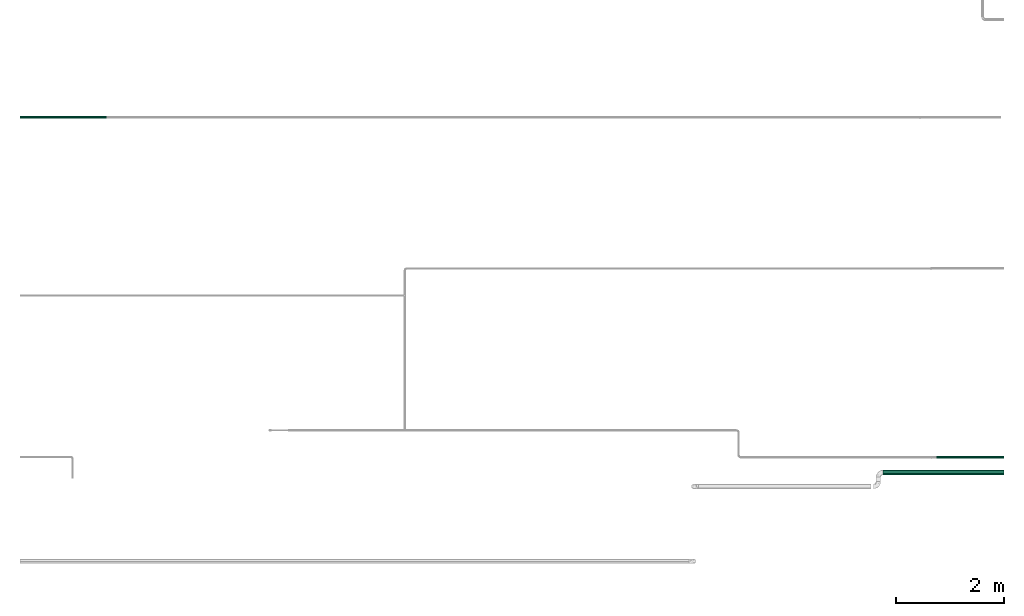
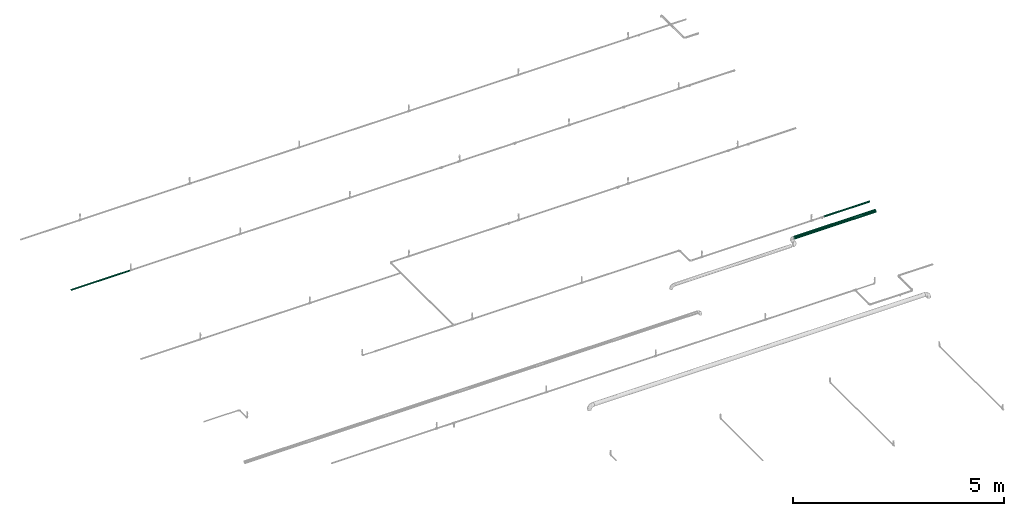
# One storey, part 91 of 94: 3 flow segments.
"""IFC2X3 building model written with IfcOpenShell, lengths in millimetres."""

import ifcopenshell
import ifcopenshell.guid

model = None  # the IFC model being written
_history = None  # IfcOwnerHistory: only IFC2X3 demands one
_inside = {}  # id of a spatial element -> (the spatial element, [elements in it])
_under = {}  # id of a project, library or spatial element -> (it, [spatial elements below it])
_declared = {}  # id of a project -> (the project, [libraries it declares])
_typed = {}  # id of a type object -> (the type object, [elements of that type])
_made_of = {}  # id of a material, layer set ... -> (it, [elements and type objects made of it])


def new_model(schema):
    """Start an empty IFC model of exactly this schema.

    Asked for "IFC4X3", IfcOpenShell would pick the latest addendum, in which some entities
    have other attributes; the version numbers below select the first issue.
    IFC2X3 requires an IfcOwnerHistory on every rooted entity: one is made here for all.
    """
    global model, _history
    if schema == "IFC4X3":
        model = ifcopenshell.file(schema_version=(4, 3, 0, 0))
    else:
        model = ifcopenshell.file(schema=schema)
    _inside.clear()
    _under.clear()
    _declared.clear()
    _typed.clear()
    _made_of.clear()
    _history = None
    if model.schema == "IFC2X3":
        org = make("IfcOrganization", Name="unknown")
        user = make(
            "IfcPersonAndOrganization",
            ThePerson=make("IfcPerson", FamilyName="unknown"),
            TheOrganization=org,
        )
        app = make(
            "IfcApplication",
            ApplicationDeveloper=org,
            Version="unknown",
            ApplicationFullName="unknown",
            ApplicationIdentifier="unknown",
        )
        _history = make(
            "IfcOwnerHistory",
            OwningUser=user,
            OwningApplication=app,
            ChangeAction="ADDED",
            CreationDate=0,
        )
    return model


def make(cls, **values):
    """One entity of the class cls with the attributes given. An attribute that is None is left unset."""
    return model.create_entity(
        cls, **{name: value for name, value in values.items() if value is not None}
    )


def entity(cls, *values):
    """Any entity or typed value of the class cls, its attributes in the order of the schema. None: left unset."""
    e = model.create_entity(cls)
    for i, value in enumerate(values):
        if value is not None:
            e[i] = value
    return e


def rooted(cls, **values):
    """An entity with a GlobalId (a new one), such as an element, a storey or a relation."""
    return make(cls, GlobalId=ifcopenshell.guid.new(), OwnerHistory=_history, **values)


def si_unit(unit_type, name, prefix=None):
    """IfcSIUnit, for example si_unit("LENGTHUNIT", "METRE", prefix="MILLI")."""
    return make("IfcSIUnit", UnitType=unit_type, Prefix=prefix, Name=name)


def converted_unit(unit_type, name, factor, base, dimensions=None, offset=None):
    """IfcConversionBasedUnit, such as the inch: factor (a typed value) times the base unit."""
    return make(
        "IfcConversionBasedUnit"
        if offset is None
        else "IfcConversionBasedUnitWithOffset",
        ConversionOffset=offset,
        Dimensions=None
        if dimensions is None
        else entity("IfcDimensionalExponents", *dimensions),
        UnitType=unit_type,
        Name=name,
        ConversionFactor=make(
            "IfcMeasureWithUnit", ValueComponent=factor, UnitComponent=base
        ),
    )


def derived_unit(unit_type, elements):
    """IfcDerivedUnit: a product of units, each with its exponent."""
    return make(
        "IfcDerivedUnit",
        Elements=[
            make("IfcDerivedUnitElement", Unit=unit, Exponent=power)
            for unit, power in elements
        ],
        UnitType=unit_type,
    )


def assignment(units):
    """IfcUnitAssignment: the units of a project."""
    return None if units is None else make("IfcUnitAssignment", Units=units)


def point(xyz):
    """IfcCartesianPoint."""
    return None if xyz is None else make("IfcCartesianPoint", Coordinates=xyz)


def direction(xyz):
    """IfcDirection."""
    return None if xyz is None else make("IfcDirection", DirectionRatios=xyz)


def frame(location, z_axis=None, x_axis=None):
    """IfcAxis2Placement3D, a coordinate frame: its origin and axes. An axis left out is left unset."""
    return make(
        "IfcAxis2Placement3D",
        Location=point(location),
        Axis=direction(z_axis),
        RefDirection=direction(x_axis),
    )


def place(relative_to, where):
    """IfcLocalPlacement: puts the frame where relative to a parent placement (None: the world)."""
    return make(
        "IfcLocalPlacement", PlacementRelTo=relative_to, RelativePlacement=where
    )


def context(
    kind, dimensions, precision=None, world=None, true_north=None, identifier=None
):
    """IfcGeometricRepresentationContext, for example the 3D "Model" context."""
    return make(
        "IfcGeometricRepresentationContext",
        ContextIdentifier=identifier,
        ContextType=kind,
        CoordinateSpaceDimension=dimensions,
        Precision=precision,
        WorldCoordinateSystem=world,
        TrueNorth=true_north,
    )


def subcontext(parent, identifier, kind, view, scale=None):
    """IfcGeometricRepresentationSubContext, for example "Body" below "Model"."""
    return make(
        "IfcGeometricRepresentationSubContext",
        ContextIdentifier=identifier,
        ContextType=kind,
        ParentContext=parent,
        TargetScale=scale,
        TargetView=view,
    )


def project(units=None, contexts=None):
    """IfcProject with its units and contexts."""
    return rooted(
        "IfcProject",
        Name="project",
        RepresentationContexts=contexts,
        UnitsInContext=assignment(units),
    )


def spatial(cls, under=None, at=None, **own):
    """A site, building, storey or space (cls), placed at a placement, below another one or the project."""
    s = rooted(cls, ObjectPlacement=at, **own)
    if under is not None:
        _under.setdefault(under.id(), (under, []))[1].append(s)
    return s


def faces_of(points, faces, orient=None, outer=None):
    """IfcFace entities. A face is a list of loops; a loop is a list of indices into points, from 0.

    orient and outer hold one flag for each loop. By default every Orientation is true, the
    first loop of a face is its IfcFaceOuterBound and the others are IfcFaceBound.
    """
    made = []
    for i, loops in enumerate(faces):
        bounds = []
        for j, loop in enumerate(loops):
            is_outer = j == 0 if outer is None else outer[i][j]
            bounds.append(
                make(
                    "IfcFaceOuterBound" if is_outer else "IfcFaceBound",
                    Bound=make("IfcPolyLoop", Polygon=[points[k] for k in loop]),
                    Orientation=True if orient is None else orient[i][j],
                )
            )
        made.append(make("IfcFace", Bounds=bounds))
    return made


def faceted_brep(points, faces, orient=None, outer=None, voids=None):
    """IfcFacetedBrep: a solid bounded by flat faces; with voids (closed shells), ...WithVoids."""
    shared = [point(p) for p in points]
    hull = make("IfcClosedShell", CfsFaces=faces_of(shared, faces, orient, outer))
    if voids is None:
        return make("IfcFacetedBrep", Outer=hull)
    return make(
        "IfcFacetedBrepWithVoids",
        Outer=hull,
        Voids=[
            make(cls, CfsFaces=faces_of(shared, fs, o, b)) for cls, fs, o, b in voids
        ],
    )


def shape(context_of_items, identifier, shape_type, items):
    """IfcShapeRepresentation: the items that make up one representation, for example the "Body"."""
    return make(
        "IfcShapeRepresentation",
        ContextOfItems=context_of_items,
        RepresentationIdentifier=identifier,
        RepresentationType=shape_type,
        Items=items,
    )


def made_of(thing, what):
    """Note that an element or type object is made of a material, layer set ...; save() writes the relation."""
    if what is not None:
        _made_of.setdefault(what.id(), (what, []))[1].append(thing)
    return thing


def type_object(cls, material=None, **own):
    """A type object (cls), such as IfcWallType, which elements share."""
    return made_of(rooted(cls, **own), material)


def element(
    cls,
    number,
    at=None,
    inside=None,
    cuts=None,
    type_object=None,
    material=None,
    context=None,
    identifier="Body",
    shape_type=None,
    held_by="IfcProductDefinitionShape",
    body=None,
    shapes=None,
    **own,
):
    """One element of the class cls, such as IfcWall. Its Tag is "e" and its number.

    at: its placement. inside: the storey or other place that contains it. cuts: it is an
    opening in that element (IfcRelVoidsElement). A single representation is given by context,
    identifier, shape_type and body (its items); several are given by shapes. held_by: the class
    of the entity that holds the representations. save() writes the other relations.
    """
    e = rooted(cls, Tag="e%d" % number, ObjectPlacement=at, **own)
    if body is not None:
        shapes = [shape(context, identifier, shape_type, body)]
    if shapes is not None:
        e.Representation = make(held_by, Representations=shapes)
    if inside is not None:
        _inside.setdefault(inside.id(), (inside, []))[1].append(e)
    if cuts is not None:
        rooted(
            "IfcRelVoidsElement", RelatingBuildingElement=cuts, RelatedOpeningElement=e
        )
    if type_object is not None:
        _typed.setdefault(type_object.id(), (type_object, []))[1].append(e)
    return made_of(e, material)


def aggregate(whole, parts):
    """IfcRelAggregates: a whole, such as a stair, and the parts it consists of."""
    return rooted("IfcRelAggregates", RelatingObject=whole, RelatedObjects=parts)


def save(model, path):
    """Write the relations noted so far, then the file.

    IfcRelAggregates (storeys below a building ...), IfcRelContainedInSpatialStructure (elements
    in a storey), IfcRelDefinesByType, IfcRelAssociatesMaterial and IfcRelDeclares: one each for
    every whole, place, type object, material and project.
    """
    for whole, parts in _under.values():
        aggregate(whole, parts)
    for where, things in _inside.values():
        rooted(
            "IfcRelContainedInSpatialStructure",
            RelatedElements=things,
            RelatingStructure=where,
        )
    for kind, things in _typed.values():
        rooted("IfcRelDefinesByType", RelatedObjects=things, RelatingType=kind)
    for what, things in _made_of.values():
        rooted("IfcRelAssociatesMaterial", RelatedObjects=things, RelatingMaterial=what)
    for by, libraries in _declared.values():
        rooted("IfcRelDeclares", RelatingContext=by, RelatedDefinitions=libraries)
    model.write(path)


model = new_model("IFC2X3")

# Units and contexts
model_context = context("Model", 3, precision=0.01, world=frame((0.0, 4.29681676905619e-09, 0.0)), true_north=direction((4.01073788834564e-13, 1.0)))
plan_context = context("Plan", 3, precision=0.01, world=frame((0.0, 4.29681676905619e-09, 0.0)), true_north=direction((4.01073788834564e-13, 1.0)))
body_context = subcontext(model_context, "Body", "Model", "MODEL_VIEW")
ifc_project = project(units=[converted_unit("PLANEANGLEUNIT", "DEGREE", entity("IfcPositiveLengthMeasure", 0.0174532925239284), si_unit("PLANEANGLEUNIT", "RADIAN"), dimensions=[0, 0, 0, 0, 0, 0, 0]), si_unit("AREAUNIT", "SQUARE_METRE"), si_unit("LENGTHUNIT", "METRE", prefix="MILLI"), si_unit("MASSUNIT", "GRAM", prefix="KILO"), si_unit("POWERUNIT", "WATT"), si_unit("PRESSUREUNIT", "PASCAL"), si_unit("FORCEUNIT", "NEWTON", prefix="KILO"), si_unit("ELECTRICCURRENTUNIT", "AMPERE"), si_unit("THERMODYNAMICTEMPERATUREUNIT", "DEGREE_CELSIUS"), si_unit("TIMEUNIT", "SECOND"), si_unit("VOLUMEUNIT", "CUBIC_METRE"), derived_unit("LINEARVELOCITYUNIT", [(si_unit("LENGTHUNIT", "METRE"), 1), (si_unit("TIMEUNIT", "SECOND"), -1)]), derived_unit("VOLUMETRICFLOWRATEUNIT", [(si_unit("VOLUMEUNIT", "CUBIC_METRE"), 1), (si_unit("TIMEUNIT", "SECOND"), -1)]), derived_unit("THERMALTRANSMITTANCEUNIT", [(si_unit("POWERUNIT", "WATT"), 1), (si_unit("THERMODYNAMICTEMPERATUREUNIT", "KELVIN"), -1), (si_unit("AREAUNIT", "SQUARE_METRE"), -1)])], contexts=[model_context, plan_context])

# Site, building, storey
site_placement = place(None, frame((0.0, -4.29681676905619e-09, 0.0), z_axis=(0.0, 0.0, 1.0), x_axis=(1.0, 0.0, 0.0)))
site = spatial("IfcSite", under=ifc_project, at=site_placement, CompositionType="ELEMENT")
building_placement = place(site_placement, frame((0.0, 4.29681676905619e-09, 0.0), z_axis=(0.0, 0.0, 1.0), x_axis=(1.0, 0.0, 0.0)))
building = spatial("IfcBuilding", under=site, at=building_placement, Name="mc-building", CompositionType="ELEMENT")
storey_placement = place(building_placement, frame((0.0, 0.0, 200300.0), z_axis=(0.0, 0.0, 1.0), x_axis=(1.0, 0.0, 0.0)))
storey = spatial("IfcBuildingStorey", under=building, at=storey_placement, Name="Nivå C", CompositionType="ELEMENT", Elevation=200300.0)

# Flow segments
pipe_segment_type = type_object("IfcPipeSegmentType", Name="Stålrør normaltykke", PredefinedType="RIGIDSEGMENT")
flow_segment_1_placement = place(storey_placement, frame((512531.06879, 416298.62756, 2850.0), z_axis=(0.0, 0.0, 1.0), x_axis=(1.0, 0.0, 0.0)))
element("IfcFlowSegment", 1, at=flow_segment_1_placement, inside=storey, type_object=pipe_segment_type, Name="Stålrør normaltykke", context=body_context, shape_type="Brep", body=[
    faceted_brep([(1331.43121000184, 18.9083088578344, -3.33404501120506), (1331.43121000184, 19.2, 0.0), (2932.4, 19.2, 0.0), (2932.4, 18.9083088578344, -3.33404501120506), (1331.43121000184, 18.0420983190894, -6.56678675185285), (2932.4, 18.0420983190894, -6.56678675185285), (1331.43121000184, 16.6276877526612, -9.60000000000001), (2932.4, 16.6276877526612, -9.60000000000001), (1331.43121000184, 14.7080533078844, -12.3415221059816), (2932.4, 14.7080533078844, -12.3415221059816), (1331.43121000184, 12.3415221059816, -14.7080533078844), (2932.4, 12.3415221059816, -14.7080533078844), (1331.43121000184, 9.6, -16.6276877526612), (2932.4, 9.6, -16.6276877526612), (1331.43121000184, 6.56678675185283, -18.0420983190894), (2932.4, 6.56678675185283, -18.0420983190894), (1331.43121000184, 3.33404501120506, -18.9083088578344), (2932.4, 3.33404501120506, -18.9083088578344), (1331.43121000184, -3.52698278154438e-15, -19.2), (2932.4, -3.52698278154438e-15, -19.2), (1331.43121000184, -3.33404501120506, -18.9083088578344), (2932.4, -3.33404501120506, -18.9083088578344), (1331.43121000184, -6.56678675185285, -18.0420983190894), (2932.4, -6.56678675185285, -18.0420983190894), (1331.43121000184, -9.60000000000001, -16.6276877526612), (2932.4, -9.60000000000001, -16.6276877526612), (1331.43121000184, -12.3415221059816, -14.7080533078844), (2932.4, -12.3415221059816, -14.7080533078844), (1331.43121000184, -14.7080533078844, -12.3415221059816), (2932.4, -14.7080533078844, -12.3415221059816), (1331.43121000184, -16.6276877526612, -9.59999999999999), (2932.4, -16.6276877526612, -9.59999999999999), (1331.43121000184, -18.0420983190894, -6.56678675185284), (2932.4, -18.0420983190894, -6.56678675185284), (1331.43121000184, -18.9083088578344, -3.33404501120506), (2932.4, -18.9083088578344, -3.33404501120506), (1331.43121000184, -19.2, 2.35132185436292e-15), (2932.4, -19.2, 2.35132185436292e-15), (1331.43121000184, -18.9083088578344, 3.33404501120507), (2932.4, -18.9083088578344, 3.33404501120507), (1331.43121000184, -18.0420983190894, 6.56678675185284), (2932.4, -18.0420983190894, 6.56678675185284), (1331.43121000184, -16.6276877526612, 9.6), (2932.4, -16.6276877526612, 9.6), (1331.43121000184, -14.7080533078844, 12.3415221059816), (2932.4, -14.7080533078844, 12.3415221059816), (1331.43121000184, -12.3415221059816, 14.7080533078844), (2932.4, -12.3415221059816, 14.7080533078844), (1331.43121000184, -9.6, 16.6276877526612), (2932.4, -9.6, 16.6276877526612), (1331.43121000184, -6.56678675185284, 18.0420983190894), (2932.4, -6.56678675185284, 18.0420983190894), (1331.43121000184, -3.33404501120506, 18.9083088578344), (2932.4, -3.33404501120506, 18.9083088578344), (1331.43121000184, 1.17566092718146e-15, 19.2), (2932.4, 1.17566092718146e-15, 19.2), (1331.43121000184, 3.33404501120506, 18.9083088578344), (2932.4, 3.33404501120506, 18.9083088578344), (1331.43121000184, 6.56678675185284, 18.0420983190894), (2932.4, 6.56678675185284, 18.0420983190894), (1331.43121000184, 9.6, 16.6276877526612), (2932.4, 9.6, 16.6276877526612), (1331.43121000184, 12.3415221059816, 14.7080533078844), (2932.4, 12.3415221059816, 14.7080533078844), (1331.43121000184, 14.7080533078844, 12.3415221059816), (2932.4, 14.7080533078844, 12.3415221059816), (1331.43121000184, 16.6276877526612, 9.6), (2932.4, 16.6276877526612, 9.6), (1331.43121000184, 18.0420983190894, 6.56678675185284), (2932.4, 18.0420983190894, 6.56678675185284), (1331.43121000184, 18.9083088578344, 3.33404501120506), (2932.4, 18.9083088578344, 3.33404501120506), (1331.43121000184, 21.2, 0.0), (1331.43121000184, 20.8779243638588, -3.68134136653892), (2932.4, 20.8779243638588, -3.68134136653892), (2932.4, 21.2, 0.0), (1331.43121000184, 20.8779243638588, 3.68134136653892), (2932.4, 20.8779243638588, 3.68134136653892), (1331.43121000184, 19.9214835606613, 7.25082703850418), (2932.4, 19.9214835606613, 7.25082703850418), (1331.43121000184, 18.3597385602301, 10.6), (2932.4, 18.3597385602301, 10.6), (1331.43121000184, 16.2401421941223, 13.6270973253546), (2932.4, 16.2401421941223, 13.6270973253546), (1331.43121000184, 13.6270973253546, 16.2401421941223), (2932.4, 13.6270973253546, 16.2401421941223), (1331.43121000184, 10.6, 18.3597385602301), (2932.4, 10.6, 18.3597385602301), (1331.43121000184, 7.25082703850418, 19.9214835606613), (2932.4, 7.25082703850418, 19.9214835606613), (1331.43121000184, 3.68134136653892, 20.8779243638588), (2932.4, 3.68134136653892, 20.8779243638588), (1331.43121000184, 1.29812560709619e-15, 21.2), (2932.4, 1.29812560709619e-15, 21.2), (1331.43121000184, -3.68134136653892, 20.8779243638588), (2932.4, -3.68134136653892, 20.8779243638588), (1331.43121000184, -7.25082703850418, 19.9214835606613), (2932.4, -7.25082703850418, 19.9214835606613), (1331.43121000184, -10.6, 18.3597385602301), (2932.4, -10.6, 18.3597385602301), (1331.43121000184, -13.6270973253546, 16.2401421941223), (2932.4, -13.6270973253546, 16.2401421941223), (1331.43121000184, -16.2401421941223, 13.6270973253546), (2932.4, -16.2401421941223, 13.6270973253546), (1331.43121000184, -18.3597385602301, 10.6), (2932.4, -18.3597385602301, 10.6), (1331.43121000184, -19.9214835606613, 7.25082703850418), (2932.4, -19.9214835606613, 7.25082703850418), (1331.43121000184, -20.8779243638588, 3.68134136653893), (2932.4, -20.8779243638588, 3.68134136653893), (1331.43121000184, -21.2, 2.59625121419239e-15), (2932.4, -21.2, 2.59625121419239e-15), (1331.43121000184, -20.8779243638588, -3.68134136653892), (2932.4, -20.8779243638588, -3.68134136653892), (1331.43121000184, -19.9214835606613, -7.25082703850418), (2932.4, -19.9214835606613, -7.25082703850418), (1331.43121000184, -18.3597385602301, -10.6), (2932.4, -18.3597385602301, -10.6), (1331.43121000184, -16.2401421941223, -13.6270973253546), (2932.4, -16.2401421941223, -13.6270973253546), (1331.43121000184, -13.6270973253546, -16.2401421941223), (2932.4, -13.6270973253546, -16.2401421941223), (1331.43121000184, -10.6, -18.3597385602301), (2932.4, -10.6, -18.3597385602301), (1331.43121000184, -7.25082703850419, -19.9214835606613), (2932.4, -7.25082703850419, -19.9214835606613), (1331.43121000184, -3.68134136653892, -20.8779243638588), (2932.4, -3.68134136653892, -20.8779243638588), (1331.43121000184, -3.89437682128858e-15, -21.2), (2932.4, -3.89437682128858e-15, -21.2), (1331.43121000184, 3.68134136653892, -20.8779243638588), (2932.4, 3.68134136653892, -20.8779243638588), (1331.43121000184, 7.25082703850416, -19.9214835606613), (2932.4, 7.25082703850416, -19.9214835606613), (1331.43121000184, 10.6, -18.3597385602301), (2932.4, 10.6, -18.3597385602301), (1331.43121000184, 13.6270973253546, -16.2401421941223), (2932.4, 13.6270973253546, -16.2401421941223), (1331.43121000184, 16.2401421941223, -13.6270973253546), (2932.4, 16.2401421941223, -13.6270973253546), (1331.43121000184, 18.3597385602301, -10.6), (2932.4, 18.3597385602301, -10.6), (1331.43121000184, 19.9214835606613, -7.25082703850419), (2932.4, 19.9214835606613, -7.25082703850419)], [[[0, 1, 2, 3]], [[4, 0, 3, 5]], [[6, 4, 5, 7]], [[8, 6, 7, 9]], [[10, 8, 9, 11]], [[12, 10, 11, 13]], [[14, 12, 13, 15]], [[16, 14, 15, 17]], [[18, 16, 17, 19]], [[20, 18, 19, 21]], [[22, 20, 21, 23]], [[24, 22, 23, 25]], [[26, 24, 25, 27]], [[28, 26, 27, 29]], [[30, 28, 29, 31]], [[32, 30, 31, 33]], [[34, 32, 33, 35]], [[36, 34, 35, 37]], [[38, 36, 37, 39]], [[40, 38, 39, 41]], [[42, 40, 41, 43]], [[44, 42, 43, 45]], [[46, 44, 45, 47]], [[48, 46, 47, 49]], [[50, 48, 49, 51]], [[52, 50, 51, 53]], [[54, 52, 53, 55]], [[56, 54, 55, 57]], [[58, 56, 57, 59]], [[60, 58, 59, 61]], [[62, 60, 61, 63]], [[64, 62, 63, 65]], [[66, 64, 65, 67]], [[68, 66, 67, 69]], [[70, 68, 69, 71]], [[1, 70, 71, 2]], [[72, 73, 74, 75]], [[76, 72, 75, 77]], [[78, 76, 77, 79]], [[80, 78, 79, 81]], [[82, 80, 81, 83]], [[84, 82, 83, 85]], [[86, 84, 85, 87]], [[88, 86, 87, 89]], [[90, 88, 89, 91]], [[92, 90, 91, 93]], [[94, 92, 93, 95]], [[96, 94, 95, 97]], [[98, 96, 97, 99]], [[100, 98, 99, 101]], [[102, 100, 101, 103]], [[104, 102, 103, 105]], [[106, 104, 105, 107]], [[108, 106, 107, 109]], [[110, 108, 109, 111]], [[112, 110, 111, 113]], [[114, 112, 113, 115]], [[116, 114, 115, 117]], [[118, 116, 117, 119]], [[120, 118, 119, 121]], [[122, 120, 121, 123]], [[124, 122, 123, 125]], [[126, 124, 125, 127]], [[128, 126, 127, 129]], [[130, 128, 129, 131]], [[132, 130, 131, 133]], [[134, 132, 133, 135]], [[136, 134, 135, 137]], [[138, 136, 137, 139]], [[140, 138, 139, 141]], [[142, 140, 141, 143]], [[73, 142, 143, 74]], [[75, 74, 143, 141, 139, 137, 135, 133, 131, 129, 127, 125, 123, 121, 119, 117, 115, 113, 111, 109, 107, 105, 103, 101, 99, 97, 95, 93, 91, 89, 87, 85, 83, 81, 79, 77], [2, 71, 69, 67, 65, 63, 61, 59, 57, 55, 53, 51, 49, 47, 45, 43, 41, 39, 37, 35, 33, 31, 29, 27, 25, 23, 21, 19, 17, 15, 13, 11, 9, 7, 5, 3]], [[76, 78, 80, 82, 84, 86, 88, 90, 92, 94, 96, 98, 100, 102, 104, 106, 108, 110, 112, 114, 116, 118, 120, 122, 124, 126, 128, 130, 132, 134, 136, 138, 140, 142, 73, 72], [4, 6, 8, 10, 12, 14, 16, 18, 20, 22, 24, 26, 28, 30, 32, 34, 36, 38, 40, 42, 44, 46, 48, 50, 52, 54, 56, 58, 60, 62, 64, 66, 68, 70, 1, 0]]], orient=[[False], [False], [False], [False], [False], [False], [False], [False], [False], [False], [False], [False], [False], [False], [False], [False], [False], [False], [False], [False], [False], [False], [False], [False], [False], [False], [False], [False], [False], [False], [False], [False], [False], [False], [False], [False], [False], [False], [False], [False], [False], [False], [False], [False], [False], [False], [False], [False], [False], [False], [False], [False], [False], [False], [False], [False], [False], [False], [False], [False], [False], [False], [False], [False], [False], [False], [False], [False], [False], [False], [False], [False], [False, False], [False, False]]),
])
flow_segment_2_placement = place(storey_placement, frame((532624.13534, 410000.1625, 2850.0), z_axis=(0.0, 0.0, 1.0), x_axis=(-1.0, 0.0, 0.0)))
element("IfcFlowSegment", 2, at=flow_segment_2_placement, inside=storey, type_object=pipe_segment_type, Name="Stålrør normaltykke", context=body_context, shape_type="Brep", body=[
    faceted_brep([(529.135339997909, 21.7642513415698, -3.83762472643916), (529.135339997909, 22.1, 0.0), (1780.8, 22.1, 0.0), (1780.8, 21.7642513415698, -3.83762472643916), (529.135339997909, 20.7672069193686, -7.5586451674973), (1780.8, 20.7672069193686, -7.5586451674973), (529.135339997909, 19.1391614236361, -11.05), (1780.8, 19.1391614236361, -11.05), (529.135339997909, 16.9295821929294, -14.2056061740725), (1780.8, 16.9295821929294, -14.2056061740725), (529.135339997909, 14.2056061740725, -16.9295821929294), (1780.8, 14.2056061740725, -16.9295821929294), (529.135339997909, 11.05, -19.1391614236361), (1780.8, 11.05, -19.1391614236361), (529.135339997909, 7.55864516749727, -20.7672069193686), (1780.8, 7.55864516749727, -20.7672069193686), (529.135339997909, 3.83762472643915, -21.7642513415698), (1780.8, 3.83762472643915, -21.7642513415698), (529.135339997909, -4.05970413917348e-15, -22.1), (1780.8, -4.05970413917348e-15, -22.1), (529.135339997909, -3.83762472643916, -21.7642513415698), (1780.8, -3.83762472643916, -21.7642513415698), (529.135339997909, -7.55864516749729, -20.7672069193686), (1780.8, -7.55864516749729, -20.7672069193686), (529.135339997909, -11.05, -19.1391614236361), (1780.8, -11.05, -19.1391614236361), (529.135339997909, -14.2056061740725, -16.9295821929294), (1780.8, -14.2056061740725, -16.9295821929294), (529.135339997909, -16.9295821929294, -14.2056061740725), (1780.8, -16.9295821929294, -14.2056061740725), (529.135339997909, -19.1391614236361, -11.05), (1780.8, -19.1391614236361, -11.05), (529.135339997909, -20.7672069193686, -7.55864516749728), (1780.8, -20.7672069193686, -7.55864516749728), (529.135339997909, -21.7642513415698, -3.83762472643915), (1780.8, -21.7642513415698, -3.83762472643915), (529.135339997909, -22.1, 2.70646942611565e-15), (1780.8, -22.1, 2.70646942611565e-15), (529.135339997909, -21.7642513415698, 3.83762472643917), (1780.8, -21.7642513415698, 3.83762472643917), (529.135339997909, -20.7672069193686, 7.55864516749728), (1780.8, -20.7672069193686, 7.55864516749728), (529.135339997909, -19.1391614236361, 11.05), (1780.8, -19.1391614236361, 11.05), (529.135339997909, -16.9295821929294, 14.2056061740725), (1780.8, -16.9295821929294, 14.2056061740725), (529.135339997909, -14.2056061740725, 16.9295821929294), (1780.8, -14.2056061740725, 16.9295821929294), (529.135339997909, -11.05, 19.1391614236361), (1780.8, -11.05, 19.1391614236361), (529.135339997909, -7.55864516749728, 20.7672069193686), (1780.8, -7.55864516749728, 20.7672069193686), (529.135339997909, -3.83762472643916, 21.7642513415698), (1780.8, -3.83762472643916, 21.7642513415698), (529.135339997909, 1.35323471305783e-15, 22.1), (1780.8, 1.35323471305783e-15, 22.1), (529.135339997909, 3.83762472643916, 21.7642513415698), (1780.8, 3.83762472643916, 21.7642513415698), (529.135339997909, 7.55864516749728, 20.7672069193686), (1780.8, 7.55864516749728, 20.7672069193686), (529.135339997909, 11.05, 19.1391614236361), (1780.8, 11.05, 19.1391614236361), (529.135339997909, 14.2056061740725, 16.9295821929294), (1780.8, 14.2056061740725, 16.9295821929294), (529.135339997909, 16.9295821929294, 14.2056061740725), (1780.8, 16.9295821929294, 14.2056061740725), (529.135339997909, 19.1391614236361, 11.05), (1780.8, 19.1391614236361, 11.05), (529.135339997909, 20.7672069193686, 7.55864516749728), (1780.8, 20.7672069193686, 7.55864516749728), (529.135339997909, 21.7642513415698, 3.83762472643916), (1780.8, 21.7642513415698, 3.83762472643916), (529.135339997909, 24.1, 0.0), (529.135339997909, 23.7338668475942, -4.18492108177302), (1780.8, 23.7338668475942, -4.18492108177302), (1780.8, 24.1, 0.0), (529.135339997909, 23.7338668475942, 4.18492108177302), (1780.8, 23.7338668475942, 4.18492108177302), (529.135339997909, 22.6465921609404, 8.24268545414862), (1780.8, 22.6465921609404, 8.24268545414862), (529.135339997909, 20.871212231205, 12.05), (1780.8, 20.871212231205, 12.05), (529.135339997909, 18.4616710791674, 15.4911813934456), (1780.8, 18.4616710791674, 15.4911813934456), (529.135339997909, 15.4911813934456, 18.4616710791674), (1780.8, 15.4911813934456, 18.4616710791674), (529.135339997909, 12.05, 20.871212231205), (1780.8, 12.05, 20.871212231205), (529.135339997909, 8.24268545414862, 22.6465921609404), (1780.8, 8.24268545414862, 22.6465921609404), (529.135339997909, 4.18492108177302, 23.7338668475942), (1780.8, 4.18492108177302, 23.7338668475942), (529.135339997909, 1.47569939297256e-15, 24.1), (1780.8, 1.47569939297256e-15, 24.1), (529.135339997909, -4.18492108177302, 23.7338668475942), (1780.8, -4.18492108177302, 23.7338668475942), (529.135339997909, -8.24268545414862, 22.6465921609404), (1780.8, -8.24268545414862, 22.6465921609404), (529.135339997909, -12.05, 20.871212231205), (1780.8, -12.05, 20.871212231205), (529.135339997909, -15.4911813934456, 18.4616710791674), (1780.8, -15.4911813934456, 18.4616710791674), (529.135339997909, -18.4616710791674, 15.4911813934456), (1780.8, -18.4616710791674, 15.4911813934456), (529.135339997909, -20.871212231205, 12.05), (1780.8, -20.871212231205, 12.05), (529.135339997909, -22.6465921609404, 8.24268545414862), (1780.8, -22.6465921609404, 8.24268545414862), (529.135339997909, -23.7338668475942, 4.18492108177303), (1780.8, -23.7338668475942, 4.18492108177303), (529.135339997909, -24.1, 2.95139878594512e-15), (1780.8, -24.1, 2.95139878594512e-15), (529.135339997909, -23.7338668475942, -4.18492108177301), (1780.8, -23.7338668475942, -4.18492108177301), (529.135339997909, -22.6465921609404, -8.24268545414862), (1780.8, -22.6465921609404, -8.24268545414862), (529.135339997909, -20.871212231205, -12.05), (1780.8, -20.871212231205, -12.05), (529.135339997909, -18.4616710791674, -15.4911813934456), (1780.8, -18.4616710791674, -15.4911813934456), (529.135339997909, -15.4911813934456, -18.4616710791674), (1780.8, -15.4911813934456, -18.4616710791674), (529.135339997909, -12.05, -20.871212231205), (1780.8, -12.05, -20.871212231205), (529.135339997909, -8.24268545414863, -22.6465921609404), (1780.8, -8.24268545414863, -22.6465921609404), (529.135339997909, -4.18492108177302, -23.7338668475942), (1780.8, -4.18492108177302, -23.7338668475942), (529.135339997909, -4.42709817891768e-15, -24.1), (1780.8, -4.42709817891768e-15, -24.1), (529.135339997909, 4.18492108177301, -23.7338668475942), (1780.8, 4.18492108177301, -23.7338668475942), (529.135339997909, 8.2426854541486, -22.6465921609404), (1780.8, 8.2426854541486, -22.6465921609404), (529.135339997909, 12.05, -20.871212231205), (1780.8, 12.05, -20.871212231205), (529.135339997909, 15.4911813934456, -18.4616710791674), (1780.8, 15.4911813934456, -18.4616710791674), (529.135339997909, 18.4616710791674, -15.4911813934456), (1780.8, 18.4616710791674, -15.4911813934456), (529.135339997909, 20.871212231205, -12.05), (1780.8, 20.871212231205, -12.05), (529.135339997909, 22.6465921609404, -8.24268545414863), (1780.8, 22.6465921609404, -8.24268545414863)], [[[0, 1, 2, 3]], [[4, 0, 3, 5]], [[6, 4, 5, 7]], [[8, 6, 7, 9]], [[10, 8, 9, 11]], [[12, 10, 11, 13]], [[14, 12, 13, 15]], [[16, 14, 15, 17]], [[18, 16, 17, 19]], [[20, 18, 19, 21]], [[22, 20, 21, 23]], [[24, 22, 23, 25]], [[26, 24, 25, 27]], [[28, 26, 27, 29]], [[30, 28, 29, 31]], [[32, 30, 31, 33]], [[34, 32, 33, 35]], [[36, 34, 35, 37]], [[38, 36, 37, 39]], [[40, 38, 39, 41]], [[42, 40, 41, 43]], [[44, 42, 43, 45]], [[46, 44, 45, 47]], [[48, 46, 47, 49]], [[50, 48, 49, 51]], [[52, 50, 51, 53]], [[54, 52, 53, 55]], [[56, 54, 55, 57]], [[58, 56, 57, 59]], [[60, 58, 59, 61]], [[62, 60, 61, 63]], [[64, 62, 63, 65]], [[66, 64, 65, 67]], [[68, 66, 67, 69]], [[70, 68, 69, 71]], [[1, 70, 71, 2]], [[72, 73, 74, 75]], [[76, 72, 75, 77]], [[78, 76, 77, 79]], [[80, 78, 79, 81]], [[82, 80, 81, 83]], [[84, 82, 83, 85]], [[86, 84, 85, 87]], [[88, 86, 87, 89]], [[90, 88, 89, 91]], [[92, 90, 91, 93]], [[94, 92, 93, 95]], [[96, 94, 95, 97]], [[98, 96, 97, 99]], [[100, 98, 99, 101]], [[102, 100, 101, 103]], [[104, 102, 103, 105]], [[106, 104, 105, 107]], [[108, 106, 107, 109]], [[110, 108, 109, 111]], [[112, 110, 111, 113]], [[114, 112, 113, 115]], [[116, 114, 115, 117]], [[118, 116, 117, 119]], [[120, 118, 119, 121]], [[122, 120, 121, 123]], [[124, 122, 123, 125]], [[126, 124, 125, 127]], [[128, 126, 127, 129]], [[130, 128, 129, 131]], [[132, 130, 131, 133]], [[134, 132, 133, 135]], [[136, 134, 135, 137]], [[138, 136, 137, 139]], [[140, 138, 139, 141]], [[142, 140, 141, 143]], [[73, 142, 143, 74]], [[75, 74, 143, 141, 139, 137, 135, 133, 131, 129, 127, 125, 123, 121, 119, 117, 115, 113, 111, 109, 107, 105, 103, 101, 99, 97, 95, 93, 91, 89, 87, 85, 83, 81, 79, 77], [2, 71, 69, 67, 65, 63, 61, 59, 57, 55, 53, 51, 49, 47, 45, 43, 41, 39, 37, 35, 33, 31, 29, 27, 25, 23, 21, 19, 17, 15, 13, 11, 9, 7, 5, 3]], [[76, 78, 80, 82, 84, 86, 88, 90, 92, 94, 96, 98, 100, 102, 104, 106, 108, 110, 112, 114, 116, 118, 120, 122, 124, 126, 128, 130, 132, 134, 136, 138, 140, 142, 73, 72], [4, 6, 8, 10, 12, 14, 16, 18, 20, 22, 24, 26, 28, 30, 32, 34, 36, 38, 40, 42, 44, 46, 48, 50, 52, 54, 56, 58, 60, 62, 64, 66, 68, 70, 1, 0]]], orient=[[False], [False], [False], [False], [False], [False], [False], [False], [False], [False], [False], [False], [False], [False], [False], [False], [False], [False], [False], [False], [False], [False], [False], [False], [False], [False], [False], [False], [False], [False], [False], [False], [False], [False], [False], [False], [False], [False], [False], [False], [False], [False], [False], [False], [False], [False], [False], [False], [False], [False], [False], [False], [False], [False], [False], [False], [False], [False], [False], [False], [False], [False], [False], [False], [False], [False], [False], [False], [False], [False], [False], [False], [False, False], [False, False]]),
])
flow_segment_3_placement = place(storey_placement, frame((529855.06344, 409720.81516, 2750.0), z_axis=(0.0, 0.0, 1.0), x_axis=(1.0, 0.0, 0.0)))
element("IfcFlowSegment", 3, at=flow_segment_3_placement, inside=storey, type_object=pipe_segment_type, Name="Stålrør normaltykke", context=body_context, shape_type="Brep", body=[
    faceted_brep([(2239.93656000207, 42.5, 0.0), (2239.93656000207, 41.8543295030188, -7.38004755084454), (0.0, 41.8543295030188, -7.38004755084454), (0.0, 42.5, 0.0), (2239.93656000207, 39.9369363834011, -14.535856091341), (0.0, 39.9369363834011, -14.535856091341), (2239.93656000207, 36.8060796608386, -21.25), (0.0, 36.8060796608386, -21.25), (2239.93656000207, 32.5568888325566, -27.3184734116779), (0.0, 32.5568888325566, -27.3184734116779), (2239.93656000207, 27.3184734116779, -32.5568888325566), (0.0, 27.3184734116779, -32.5568888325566), (2239.93656000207, 21.25, -36.8060796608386), (0.0, 21.25, -36.8060796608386), (2239.93656000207, 14.5358560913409, -39.9369363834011), (0.0, 14.5358560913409, -39.9369363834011), (2239.93656000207, 7.38004755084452, -41.8543295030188), (0.0, 7.38004755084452, -41.8543295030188), (2239.93656000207, -7.80712334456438e-15, -42.5), (0.0, -7.80712334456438e-15, -42.5), (2239.93656000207, -7.38004755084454, -41.8543295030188), (0.0, -7.38004755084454, -41.8543295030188), (2239.93656000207, -14.5358560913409, -39.9369363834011), (0.0, -14.5358560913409, -39.9369363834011), (2239.93656000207, -21.25, -36.8060796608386), (0.0, -21.25, -36.8060796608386), (2239.93656000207, -27.3184734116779, -32.5568888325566), (0.0, -27.3184734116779, -32.5568888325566), (2239.93656000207, -32.5568888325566, -27.3184734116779), (0.0, -32.5568888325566, -27.3184734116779), (2239.93656000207, -36.8060796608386, -21.25), (0.0, -36.8060796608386, -21.25), (2239.93656000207, -39.9369363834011, -14.5358560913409), (0.0, -39.9369363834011, -14.5358560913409), (2239.93656000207, -41.8543295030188, -7.38004755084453), (0.0, -41.8543295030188, -7.38004755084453), (2239.93656000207, -42.5, 5.20474889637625e-15), (0.0, -42.5, 5.20474889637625e-15), (2239.93656000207, -41.8543295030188, 7.38004755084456), (0.0, -41.8543295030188, 7.38004755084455), (2239.93656000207, -39.9369363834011, 14.5358560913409), (0.0, -39.9369363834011, 14.5358560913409), (2239.93656000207, -36.8060796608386, 21.25), (0.0, -36.8060796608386, 21.25), (2239.93656000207, -32.5568888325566, 27.3184734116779), (0.0, -32.5568888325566, 27.3184734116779), (2239.93656000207, -27.3184734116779, 32.5568888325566), (0.0, -27.3184734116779, 32.5568888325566), (2239.93656000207, -21.25, 36.8060796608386), (0.0, -21.25, 36.8060796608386), (2239.93656000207, -14.5358560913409, 39.9369363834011), (0.0, -14.5358560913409, 39.9369363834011), (2239.93656000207, -7.38004755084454, 41.8543295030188), (0.0, -7.38004755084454, 41.8543295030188), (2239.93656000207, 2.60237444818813e-15, 42.5), (0.0, 2.60237444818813e-15, 42.5), (2239.93656000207, 7.38004755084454, 41.8543295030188), (0.0, 7.38004755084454, 41.8543295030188), (2239.93656000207, 14.5358560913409, 39.9369363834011), (0.0, 14.5358560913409, 39.9369363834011), (2239.93656000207, 21.25, 36.8060796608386), (0.0, 21.25, 36.8060796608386), (2239.93656000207, 27.3184734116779, 32.5568888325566), (0.0, 27.3184734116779, 32.5568888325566), (2239.93656000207, 32.5568888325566, 27.3184734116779), (0.0, 32.5568888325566, 27.3184734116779), (2239.93656000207, 36.8060796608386, 21.25), (0.0, 36.8060796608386, 21.25), (2239.93656000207, 39.9369363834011, 14.5358560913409), (0.0, 39.9369363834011, 14.5358560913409), (2239.93656000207, 41.8543295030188, 7.38004755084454), (0.0, 41.8543295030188, 7.38004755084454), (2239.93656000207, 43.8239450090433, -7.7273439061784), (2239.93656000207, 44.5, 0.0), (0.0, 44.5, 0.0), (0.0, 43.8239450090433, -7.7273439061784), (2239.93656000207, 43.8239450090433, 7.7273439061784), (0.0, 43.8239450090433, 7.7273439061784), (2239.93656000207, 41.8163216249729, 15.2198963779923), (0.0, 41.8163216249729, 15.2198963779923), (2239.93656000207, 38.5381304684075, 22.25), (0.0, 38.5381304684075, 22.25), (2239.93656000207, 34.0889777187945, 28.604048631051), (0.0, 34.0889777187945, 28.604048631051), (2239.93656000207, 28.604048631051, 34.0889777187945), (0.0, 28.604048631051, 34.0889777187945), (2239.93656000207, 22.25, 38.5381304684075), (0.0, 22.25, 38.5381304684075), (2239.93656000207, 15.2198963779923, 41.8163216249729), (0.0, 15.2198963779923, 41.8163216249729), (2239.93656000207, 7.7273439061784, 43.8239450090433), (0.0, 7.7273439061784, 43.8239450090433), (2239.93656000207, 2.72483912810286e-15, 44.5), (0.0, 2.72483912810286e-15, 44.5), (2239.93656000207, -7.7273439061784, 43.8239450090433), (0.0, -7.7273439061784, 43.8239450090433), (2239.93656000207, -15.2198963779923, 41.8163216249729), (0.0, -15.2198963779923, 41.8163216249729), (2239.93656000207, -22.25, 38.5381304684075), (0.0, -22.25, 38.5381304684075), (2239.93656000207, -28.604048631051, 34.0889777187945), (0.0, -28.604048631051, 34.0889777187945), (2239.93656000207, -34.0889777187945, 28.604048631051), (0.0, -34.0889777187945, 28.604048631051), (2239.93656000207, -38.5381304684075, 22.25), (0.0, -38.5381304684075, 22.25), (2239.93656000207, -41.8163216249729, 15.2198963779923), (0.0, -41.8163216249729, 15.2198963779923), (2239.93656000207, -43.8239450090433, 7.72734390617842), (0.0, -43.8239450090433, 7.72734390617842), (2239.93656000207, -44.5, 5.44967825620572e-15), (0.0, -44.5, 5.44967825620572e-15), (2239.93656000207, -43.8239450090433, -7.72734390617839), (0.0, -43.8239450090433, -7.72734390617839), (2239.93656000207, -41.8163216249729, -15.2198963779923), (0.0, -41.8163216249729, -15.2198963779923), (2239.93656000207, -38.5381304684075, -22.25), (0.0, -38.5381304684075, -22.25), (2239.93656000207, -34.0889777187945, -28.604048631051), (0.0, -34.0889777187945, -28.604048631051), (2239.93656000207, -28.604048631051, -34.0889777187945), (0.0, -28.604048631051, -34.0889777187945), (2239.93656000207, -22.25, -38.5381304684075), (0.0, -22.25, -38.5381304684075), (2239.93656000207, -15.2198963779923, -41.8163216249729), (0.0, -15.2198963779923, -41.8163216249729), (2239.93656000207, -7.7273439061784, -43.8239450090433), (0.0, -7.7273439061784, -43.8239450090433), (2239.93656000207, -8.17451738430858e-15, -44.5), (0.0, -8.17451738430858e-15, -44.5), (2239.93656000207, 7.72734390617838, -43.8239450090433), (0.0, 7.72734390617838, -43.8239450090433), (2239.93656000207, 15.2198963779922, -41.8163216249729), (0.0, 15.2198963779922, -41.8163216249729), (2239.93656000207, 22.25, -38.5381304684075), (0.0, 22.25, -38.5381304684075), (2239.93656000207, 28.604048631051, -34.0889777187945), (0.0, 28.604048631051, -34.0889777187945), (2239.93656000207, 34.0889777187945, -28.604048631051), (0.0, 34.0889777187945, -28.604048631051), (2239.93656000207, 38.5381304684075, -22.25), (0.0, 38.5381304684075, -22.25), (2239.93656000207, 41.8163216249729, -15.2198963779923), (0.0, 41.8163216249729, -15.2198963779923)], [[[0, 1, 2, 3]], [[1, 4, 5, 2]], [[4, 6, 7, 5]], [[6, 8, 9, 7]], [[8, 10, 11, 9]], [[10, 12, 13, 11]], [[12, 14, 15, 13]], [[14, 16, 17, 15]], [[16, 18, 19, 17]], [[18, 20, 21, 19]], [[20, 22, 23, 21]], [[22, 24, 25, 23]], [[24, 26, 27, 25]], [[26, 28, 29, 27]], [[28, 30, 31, 29]], [[30, 32, 33, 31]], [[32, 34, 35, 33]], [[34, 36, 37, 35]], [[36, 38, 39, 37]], [[38, 40, 41, 39]], [[40, 42, 43, 41]], [[42, 44, 45, 43]], [[44, 46, 47, 45]], [[46, 48, 49, 47]], [[48, 50, 51, 49]], [[50, 52, 53, 51]], [[52, 54, 55, 53]], [[54, 56, 57, 55]], [[56, 58, 59, 57]], [[58, 60, 61, 59]], [[60, 62, 63, 61]], [[62, 64, 65, 63]], [[64, 66, 67, 65]], [[66, 68, 69, 67]], [[68, 70, 71, 69]], [[70, 0, 3, 71]], [[72, 73, 74, 75]], [[73, 76, 77, 74]], [[76, 78, 79, 77]], [[78, 80, 81, 79]], [[80, 82, 83, 81]], [[82, 84, 85, 83]], [[84, 86, 87, 85]], [[86, 88, 89, 87]], [[88, 90, 91, 89]], [[90, 92, 93, 91]], [[92, 94, 95, 93]], [[94, 96, 97, 95]], [[96, 98, 99, 97]], [[98, 100, 101, 99]], [[100, 102, 103, 101]], [[102, 104, 105, 103]], [[104, 106, 107, 105]], [[106, 108, 109, 107]], [[108, 110, 111, 109]], [[110, 112, 113, 111]], [[112, 114, 115, 113]], [[114, 116, 117, 115]], [[116, 118, 119, 117]], [[118, 120, 121, 119]], [[120, 122, 123, 121]], [[122, 124, 125, 123]], [[124, 126, 127, 125]], [[126, 128, 129, 127]], [[128, 130, 131, 129]], [[130, 132, 133, 131]], [[132, 134, 135, 133]], [[134, 136, 137, 135]], [[136, 138, 139, 137]], [[138, 140, 141, 139]], [[140, 142, 143, 141]], [[142, 72, 75, 143]], [[75, 74, 77, 79, 81, 83, 85, 87, 89, 91, 93, 95, 97, 99, 101, 103, 105, 107, 109, 111, 113, 115, 117, 119, 121, 123, 125, 127, 129, 131, 133, 135, 137, 139, 141, 143], [3, 2, 5, 7, 9, 11, 13, 15, 17, 19, 21, 23, 25, 27, 29, 31, 33, 35, 37, 39, 41, 43, 45, 47, 49, 51, 53, 55, 57, 59, 61, 63, 65, 67, 69, 71]], [[142, 140, 138, 136, 134, 132, 130, 128, 126, 124, 122, 120, 118, 116, 114, 112, 110, 108, 106, 104, 102, 100, 98, 96, 94, 92, 90, 88, 86, 84, 82, 80, 78, 76, 73, 72], [70, 68, 66, 64, 62, 60, 58, 56, 54, 52, 50, 48, 46, 44, 42, 40, 38, 36, 34, 32, 30, 28, 26, 24, 22, 20, 18, 16, 14, 12, 10, 8, 6, 4, 1, 0]]], orient=[[False], [False], [False], [False], [False], [False], [False], [False], [False], [False], [False], [False], [False], [False], [False], [False], [False], [False], [False], [False], [False], [False], [False], [False], [False], [False], [False], [False], [False], [False], [False], [False], [False], [False], [False], [False], [False], [False], [False], [False], [False], [False], [False], [False], [False], [False], [False], [False], [False], [False], [False], [False], [False], [False], [False], [False], [False], [False], [False], [False], [False], [False], [False], [False], [False], [False], [False], [False], [False], [False], [False], [False], [False, False], [False, False]]),
])

save(model, "model.ifc")
